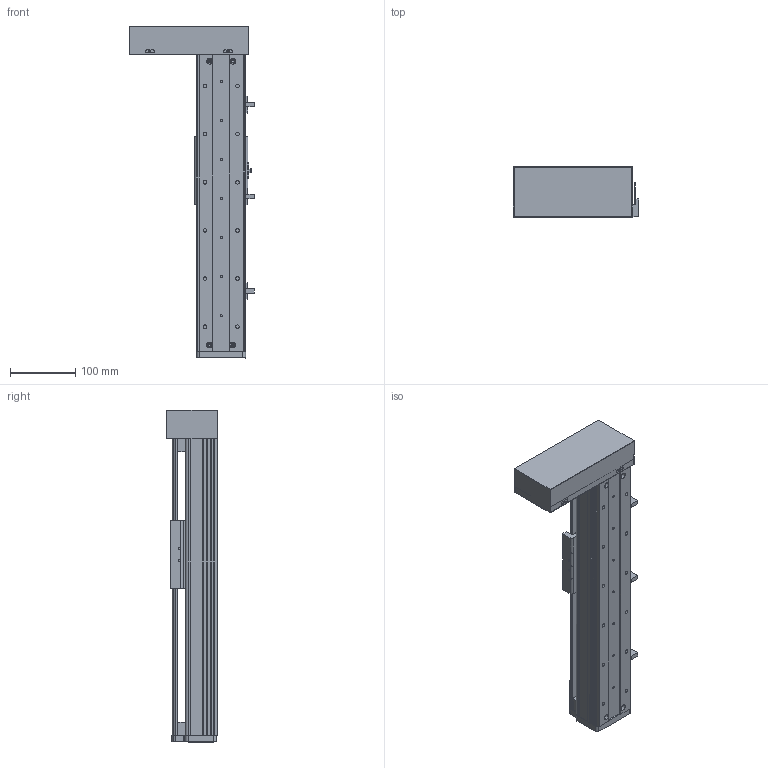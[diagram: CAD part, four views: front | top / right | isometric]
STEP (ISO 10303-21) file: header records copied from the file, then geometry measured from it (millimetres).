
FILE_DESCRIPTION (( 'STEP AP214' ), '1' );
FILE_NAME ('CF75-C-250-FWL.STEP', '2020-01-15T08:23:07', ( '微软用户' ), ( '微软中国' ), 'SwSTEP 2.0', 'SolidWorks 2016', '' );
FILE_SCHEMA (( 'AUTOMOTIVE_DESIGN' ));
Length unit declared in the file: millimetre
Products named in the file (13): 嫖萇羲壽; 75-86-95癹弇羲壽覜茼え; EGR15絳寢-250; EGW15CA賑輸; 肮祭謫俋欶; CF75酘殏萇儂假蚾啣; 75賑雄啣; 75盓厥釱; 75耜啣; 75嘐隅釱; CF75臏倰第-250; 75裔啣-250; CF75-C-250-FWL
Assembly tree (14 placements, depth 2):
  CF75-C-250-FWL
    75裔啣-250
    CF75臏倰第-250
    75嘐隅釱
    75耜啣
    75盓厥釱
    75賑雄啣
    CF75酘殏萇儂假蚾啣
    肮祭謫俋欶
    EGW15CA賑輸
    EGR15絳寢-250
    75-86-95癹弇羲壽覜茼え
    嫖萇羲壽  x3
Bounding box: 192.08 x 78 x 510.07 mm (x, y, z)
Volume: 1215885.2 mm3; surface area: 467653.4 mm2
Topology: 14 solids, 14 shells, 756 faces, 2088 edges, 1369 vertices
Faces by surface type: plane 432, cylinder 296, cone 28
Entity records: 24136 total; most frequent: CARTESIAN_POINT 4618, ORIENTED_EDGE 3856, DIRECTION 3800, EDGE_CURVE 1928, AXIS2_PLACEMENT_3D 1299, VERTEX_POINT 1273, VECTOR 1202, LINE 1202
